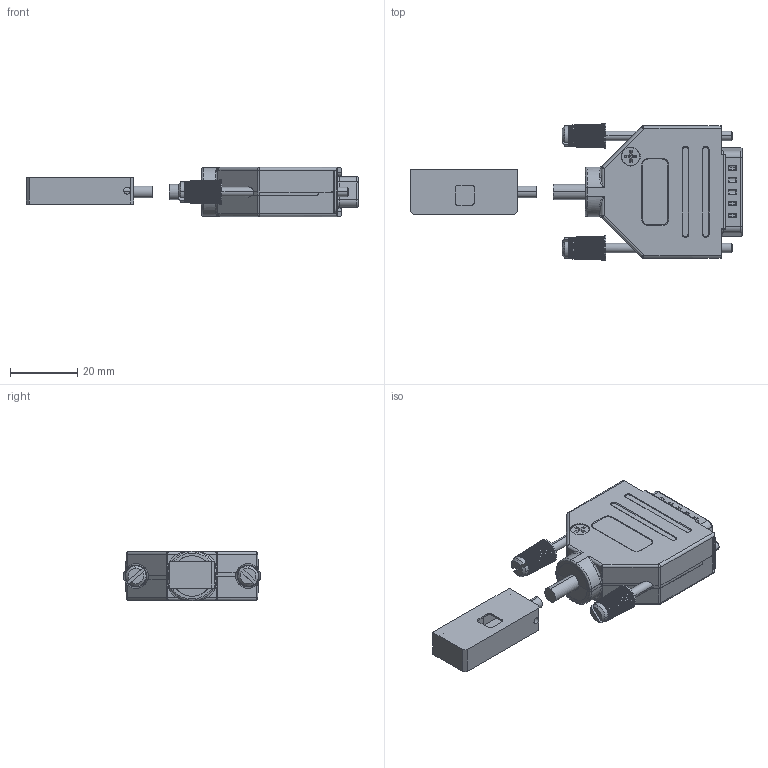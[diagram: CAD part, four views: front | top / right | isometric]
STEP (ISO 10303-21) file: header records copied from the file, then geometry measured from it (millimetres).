
FILE_DESCRIPTION (( 'STEP AP214' ), '1' );
FILE_NAME ('ABI80L-XX-Readhead.STEP', '2026-07-31T06:58:38', ( '' ), ( '' ), 'SwSTEP 2.0', 'SolidWorks 2020', '' );
FILE_SCHEMA (( 'AUTOMOTIVE_DESIGN' ));
Length unit declared in the file: millimetre
Products named in the file (7): 408390 Rev_01 L倰黍芛裔啣; ABI80L-XX-Readhead; 80Ldutou; 盄; 錨璃1_1; 408389 Rev_01 80L褲极; Dsub15 with Cover
Assembly tree (6 placements, depth 3):
  ABI80L-XX-Readhead
    Dsub15 with Cover
    80Ldutou
      408389 Rev_01 80L褲极
      408390 Rev_01 L倰黍芛裔啣
      盄
      錨璃1_1
Bounding box: 98.6 x 40.7 x 14.6 mm (x, y, z)
Volume: 1261.3 mm3; surface area: 20760.2 mm2
Topology: 4 solids, 32 shells, 3136 faces, 8428 edges, 5429 vertices
Faces by surface type: plane 1744, cylinder 919, cone 263, bspline 210
Entity records: 118074 total; most frequent: CARTESIAN_POINT 41647, ORIENTED_EDGE 16806, DIRECTION 13959, EDGE_CURVE 8418, VERTEX_POINT 5429, LINE 4773, VECTOR 4773, AXIS2_PLACEMENT_3D 4593
